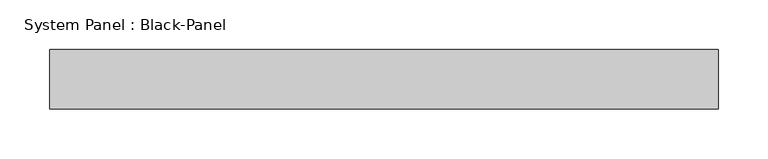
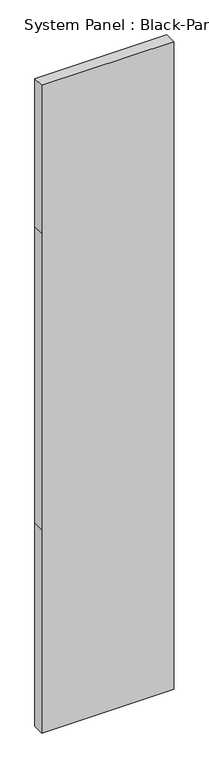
"""IFC4 building model written with IfcOpenShell, lengths in millimetres: plate geometry, System Panel : Black-Panel."""

from ifc_helpers import new_model, si_unit, frame, origin, place, context, project, spatial, polyline, outline, extrude, source, transform, mapped, element, save


def system_panel_black_panel_33968e5e(model_context):
    return source(origin(), model_context, "Body", "SweptSolid", [
        extrude(outline(polyline([(0.0, -337.5), (0.0, 337.5), (1100.0, 337.5), (2700.0, 337.5), (3500.0, 337.5), (3500.0, -337.5), (2700.0, -337.5), (1100.0, -337.5), (0.0, -337.5)])), frame((0.0, -10.5, 0.0), z_axis=(0.0, 1.0, 0.0), x_axis=(0.0, 0.0, 1.0)), (0.0, 0.0, 1.0), 60.0),
    ])


if __name__ == "__main__":
    model = new_model("IFC4")
    model_context = context("Model", 3, world=origin())
    ifc_project = project(units=[si_unit("LENGTHUNIT", "METRE", prefix="MILLI")], contexts=[model_context])
    site = spatial("IfcSite", under=ifc_project)
    building = spatial("IfcBuilding", under=site)
    placement = place(None, origin())
    system_panel_black_panel_shape = system_panel_black_panel_33968e5e(model_context)
    element("IfcPlate", 1, ObjectType="System Panel : Black-Panel", at=placement, inside=building, context=model_context, shape_type="MappedRepresentation", body=[
        mapped(system_panel_black_panel_shape, transform((0.0, 0.0, 0.0), x_axis=(1.0, 0.0, 0.0), y_axis=(0.0, 1.0, 0.0), z_axis=(0.0, 0.0, 1.0))),
    ])
    save(model, "model.ifc")
